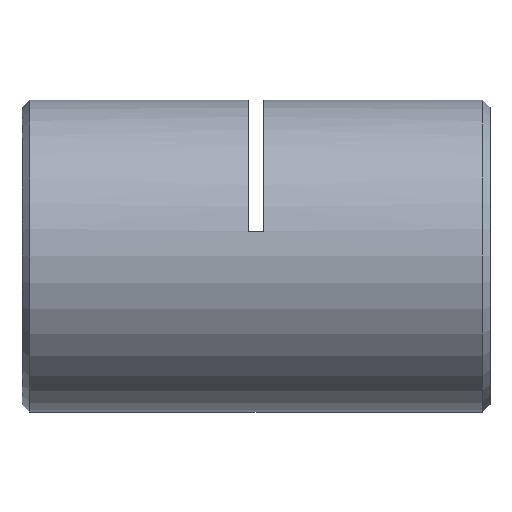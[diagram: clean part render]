
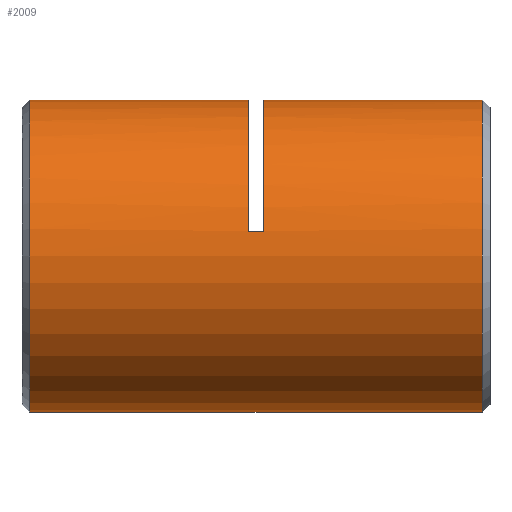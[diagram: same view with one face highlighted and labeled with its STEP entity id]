
A CAD part, left-side view. The second image highlights one B-rep face of the part: STEP entity #2009.
In plain terms, the highlighted cylindrical face has radius 8 mm (diameter 16 mm), a partial arc.
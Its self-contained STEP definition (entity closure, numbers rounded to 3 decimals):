
#92 = DIRECTION ( 'NONE',  ( 0., 1., 0. ) ) ;
#106 = EDGE_CURVE ( 'NONE', #354, #4825, #5369, .T. ) ;
#108 = DIRECTION ( 'NONE',  ( 0., 0., 1. ) ) ;
#350 = CARTESIAN_POINT ( 'NONE',  ( 0., 11.85, 0. ) ) ;
#351 = CARTESIAN_POINT ( 'NONE',  ( -7.897, 12.25, 1.28 ) ) ;
#354 = VERTEX_POINT ( 'NONE', #5519 ) ;
#362 = DIRECTION ( 'NONE',  ( 0., 1., 0. ) ) ;
#365 = DIRECTION ( 'NONE',  ( 0., 1., 0. ) ) ;
#417 = EDGE_CURVE ( 'NONE', #1086, #3880, #4216, .T. ) ;
#421 = CARTESIAN_POINT ( 'NONE',  ( 0., 23.85, 0. ) ) ;
#442 = CARTESIAN_POINT ( 'NONE',  ( 0., 0.25, 8. ) ) ;
#452 = VECTOR ( 'NONE', #1232, 1000. ) ;
#484 = AXIS2_PLACEMENT_3D ( 'NONE', #5118, #92, #108 ) ;
#556 = CYLINDRICAL_SURFACE ( 'NONE', #484, 8. ) ;
#792 = ORIENTED_EDGE ( 'NONE', *, *, #3425, .T. ) ;
#795 = FACE_OUTER_BOUND ( 'NONE', #1648, .T. ) ;
#946 = VERTEX_POINT ( 'NONE', #6459 ) ;
#1086 = VERTEX_POINT ( 'NONE', #6217 ) ;
#1232 = DIRECTION ( 'NONE',  ( 0., 1., 0. ) ) ;
#1323 = CIRCLE ( 'NONE', #6314, 8. ) ;
#1348 = DIRECTION ( 'NONE',  ( 0., 0., 1. ) ) ;
#1442 = DIRECTION ( 'NONE',  ( 0., 1., 0. ) ) ;
#1458 = DIRECTION ( 'NONE',  ( 0., 1., 0. ) ) ;
#1510 = ORIENTED_EDGE ( 'NONE', *, *, #417, .F. ) ;
#1648 = EDGE_LOOP ( 'NONE', ( #3035, #792, #2971, #1510, #4011, #4273, #3762, #3304 ) ) ;
#1918 = CARTESIAN_POINT ( 'NONE',  ( 0., 0.65, 8. ) ) ;
#2009 = ADVANCED_FACE ( 'NONE', ( #795 ), #556, .T. ) ;
#2199 = EDGE_CURVE ( 'NONE', #1086, #946, #6343, .T. ) ;
#2218 = CARTESIAN_POINT ( 'NONE',  ( 0., 0.25, -8. ) ) ;
#2264 = VERTEX_POINT ( 'NONE', #2333 ) ;
#2333 = CARTESIAN_POINT ( 'NONE',  ( 0., 0.65, -8. ) ) ;
#2358 = DIRECTION ( 'NONE',  ( 0., 0., 1. ) ) ;
#2475 = AXIS2_PLACEMENT_3D ( 'NONE', #350, #362, #2358 ) ;
#2502 = VECTOR ( 'NONE', #365, 1000. ) ;
#2614 = CARTESIAN_POINT ( 'NONE',  ( 0., 12.65, 8. ) ) ;
#2716 = VERTEX_POINT ( 'NONE', #2614 ) ;
#2932 = DIRECTION ( 'NONE',  ( 0., 0., -1. ) ) ;
#2971 = ORIENTED_EDGE ( 'NONE', *, *, #3956, .T. ) ;
#2974 = VERTEX_POINT ( 'NONE', #1918 ) ;
#3035 = ORIENTED_EDGE ( 'NONE', *, *, #3332, .F. ) ;
#3304 = ORIENTED_EDGE ( 'NONE', *, *, #106, .T. ) ;
#3332 = EDGE_CURVE ( 'NONE', #2264, #4825, #4140, .T. ) ;
#3425 = EDGE_CURVE ( 'NONE', #2264, #2974, #1323, .T. ) ;
#3613 = AXIS2_PLACEMENT_3D ( 'NONE', #4383, #1458, #4894 ) ;
#3717 = AXIS2_PLACEMENT_3D ( 'NONE', #421, #4998, #2932 ) ;
#3762 = ORIENTED_EDGE ( 'NONE', *, *, #5749, .T. ) ;
#3880 = VERTEX_POINT ( 'NONE', #5171 ) ;
#3914 = EDGE_CURVE ( 'NONE', #946, #2716, #4512, .T. ) ;
#3956 = EDGE_CURVE ( 'NONE', #2974, #3880, #4638, .T. ) ;
#3958 = CARTESIAN_POINT ( 'NONE',  ( 0., 0.25, 8. ) ) ;
#4011 = ORIENTED_EDGE ( 'NONE', *, *, #2199, .T. ) ;
#4140 = LINE ( 'NONE', #2218, #452 ) ;
#4216 = CIRCLE ( 'NONE', #2475, 8. ) ;
#4273 = ORIENTED_EDGE ( 'NONE', *, *, #3914, .T. ) ;
#4383 = CARTESIAN_POINT ( 'NONE',  ( 0., 12.65, 0. ) ) ;
#4512 = CIRCLE ( 'NONE', #3613, 8. ) ;
#4638 = LINE ( 'NONE', #3958, #5822 ) ;
#4758 = LINE ( 'NONE', #442, #5868 ) ;
#4825 = VERTEX_POINT ( 'NONE', #5543 ) ;
#4847 = CARTESIAN_POINT ( 'NONE',  ( 0., 0.65, 0. ) ) ;
#4894 = DIRECTION ( 'NONE',  ( 0., 0., 1. ) ) ;
#4998 = DIRECTION ( 'NONE',  ( 0., -1., 0. ) ) ;
#5118 = CARTESIAN_POINT ( 'NONE',  ( 0., 0.25, 0. ) ) ;
#5171 = CARTESIAN_POINT ( 'NONE',  ( 0., 11.85, 8. ) ) ;
#5362 = DIRECTION ( 'NONE',  ( 0., 1., 0. ) ) ;
#5369 = CIRCLE ( 'NONE', #3717, 8. ) ;
#5519 = CARTESIAN_POINT ( 'NONE',  ( 0., 23.85, 8. ) ) ;
#5543 = CARTESIAN_POINT ( 'NONE',  ( 0., 23.85, -8. ) ) ;
#5749 = EDGE_CURVE ( 'NONE', #2716, #354, #4758, .T. ) ;
#5822 = VECTOR ( 'NONE', #1442, 1000. ) ;
#5868 = VECTOR ( 'NONE', #5987, 1000. ) ;
#5987 = DIRECTION ( 'NONE',  ( 0., 1., 0. ) ) ;
#6217 = CARTESIAN_POINT ( 'NONE',  ( -7.897, 11.85, 1.28 ) ) ;
#6314 = AXIS2_PLACEMENT_3D ( 'NONE', #4847, #5362, #1348 ) ;
#6343 = LINE ( 'NONE', #351, #2502 ) ;
#6459 = CARTESIAN_POINT ( 'NONE',  ( -7.897, 12.65, 1.28 ) ) ;
